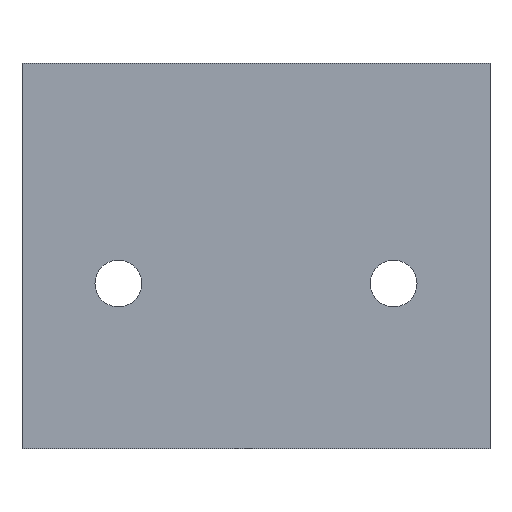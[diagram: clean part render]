
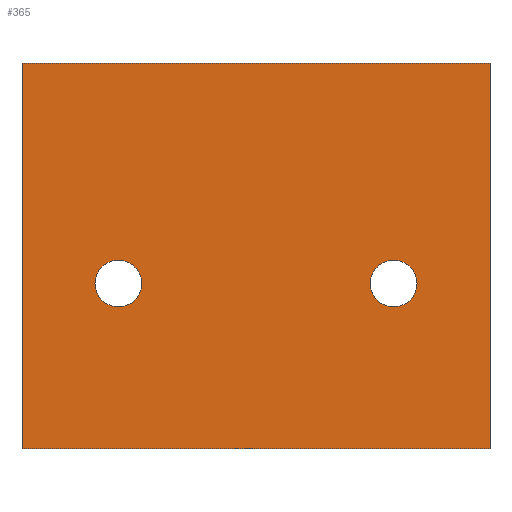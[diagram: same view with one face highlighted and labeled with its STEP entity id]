
A CAD part, front view. The second image highlights one B-rep face of the part: STEP entity #365.
In plain terms, the highlighted planar face has unit normal (0, -1, 0).
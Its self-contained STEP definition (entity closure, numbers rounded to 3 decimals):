
#21 = EDGE_CURVE('',#22,#24,#26,.T.);
#22 = VERTEX_POINT('',#23);
#23 = CARTESIAN_POINT('',(-17.,-18.,-1.));
#24 = VERTEX_POINT('',#25);
#25 = CARTESIAN_POINT('',(-17.,-18.,27.));
#26 = SURFACE_CURVE('',#27,(#31,#43),.PCURVE_S1.);
#27 = LINE('',#28,#29);
#28 = CARTESIAN_POINT('',(-17.,-18.,-1.));
#29 = VECTOR('',#30,1.);
#30 = DIRECTION('',(0.,0.,1.));
#31 = PCURVE('',#32,#37);
#32 = PLANE('',#33);
#33 = AXIS2_PLACEMENT_3D('',#34,#35,#36);
#34 = CARTESIAN_POINT('',(-17.,-18.,-1.));
#35 = DIRECTION('',(1.,0.,0.));
#36 = DIRECTION('',(0.,0.,1.));
#37 = DEFINITIONAL_REPRESENTATION('',(#38),#42);
#38 = LINE('',#39,#40);
#39 = CARTESIAN_POINT('',(0.,0.));
#40 = VECTOR('',#41,1.);
#41 = DIRECTION('',(1.,0.));
#42 = ( GEOMETRIC_REPRESENTATION_CONTEXT(2) 
PARAMETRIC_REPRESENTATION_CONTEXT() REPRESENTATION_CONTEXT('2D SPACE',''
  ) );
#43 = PCURVE('',#44,#49);
#44 = PLANE('',#45);
#45 = AXIS2_PLACEMENT_3D('',#46,#47,#48);
#46 = CARTESIAN_POINT('',(-17.,-18.,-1.));
#47 = DIRECTION('',(0.,1.,0.));
#48 = DIRECTION('',(0.,-0.,1.));
#49 = DEFINITIONAL_REPRESENTATION('',(#50),#54);
#50 = LINE('',#51,#52);
#51 = CARTESIAN_POINT('',(0.,0.));
#52 = VECTOR('',#53,1.);
#53 = DIRECTION('',(1.,0.));
#54 = ( GEOMETRIC_REPRESENTATION_CONTEXT(2) 
PARAMETRIC_REPRESENTATION_CONTEXT() REPRESENTATION_CONTEXT('2D SPACE',''
  ) );
#72 = PLANE('',#73);
#73 = AXIS2_PLACEMENT_3D('',#74,#75,#76);
#74 = CARTESIAN_POINT('',(-17.,-18.,-1.));
#75 = DIRECTION('',(0.,0.,1.));
#76 = DIRECTION('',(1.,0.,-0.));
#126 = PLANE('',#127);
#127 = AXIS2_PLACEMENT_3D('',#128,#129,#130);
#128 = CARTESIAN_POINT('',(-17.,-18.,27.));
#129 = DIRECTION('',(0.,0.,1.));
#130 = DIRECTION('',(1.,0.,-0.));
#365 = ADVANCED_FACE('',(#366,#441,#472),#44,.F.);
#366 = FACE_BOUND('',#367,.F.);
#367 = EDGE_LOOP('',(#368,#391,#392,#415));
#368 = ORIENTED_EDGE('',*,*,#369,.F.);
#369 = EDGE_CURVE('',#22,#370,#372,.T.);
#370 = VERTEX_POINT('',#371);
#371 = CARTESIAN_POINT('',(17.,-18.,-1.));
#372 = SURFACE_CURVE('',#373,(#377,#384),.PCURVE_S1.);
#373 = LINE('',#374,#375);
#374 = CARTESIAN_POINT('',(-17.,-18.,-1.));
#375 = VECTOR('',#376,1.);
#376 = DIRECTION('',(1.,0.,0.));
#377 = PCURVE('',#44,#378);
#378 = DEFINITIONAL_REPRESENTATION('',(#379),#383);
#379 = LINE('',#380,#381);
#380 = CARTESIAN_POINT('',(0.,0.));
#381 = VECTOR('',#382,1.);
#382 = DIRECTION('',(0.,1.));
#383 = ( GEOMETRIC_REPRESENTATION_CONTEXT(2) 
PARAMETRIC_REPRESENTATION_CONTEXT() REPRESENTATION_CONTEXT('2D SPACE',''
  ) );
#384 = PCURVE('',#72,#385);
#385 = DEFINITIONAL_REPRESENTATION('',(#386),#390);
#386 = LINE('',#387,#388);
#387 = CARTESIAN_POINT('',(0.,0.));
#388 = VECTOR('',#389,1.);
#389 = DIRECTION('',(1.,0.));
#390 = ( GEOMETRIC_REPRESENTATION_CONTEXT(2) 
PARAMETRIC_REPRESENTATION_CONTEXT() REPRESENTATION_CONTEXT('2D SPACE',''
  ) );
#391 = ORIENTED_EDGE('',*,*,#21,.T.);
#392 = ORIENTED_EDGE('',*,*,#393,.T.);
#393 = EDGE_CURVE('',#24,#394,#396,.T.);
#394 = VERTEX_POINT('',#395);
#395 = CARTESIAN_POINT('',(17.,-18.,27.));
#396 = SURFACE_CURVE('',#397,(#401,#408),.PCURVE_S1.);
#397 = LINE('',#398,#399);
#398 = CARTESIAN_POINT('',(-17.,-18.,27.));
#399 = VECTOR('',#400,1.);
#400 = DIRECTION('',(1.,0.,0.));
#401 = PCURVE('',#44,#402);
#402 = DEFINITIONAL_REPRESENTATION('',(#403),#407);
#403 = LINE('',#404,#405);
#404 = CARTESIAN_POINT('',(28.,0.));
#405 = VECTOR('',#406,1.);
#406 = DIRECTION('',(0.,1.));
#407 = ( GEOMETRIC_REPRESENTATION_CONTEXT(2) 
PARAMETRIC_REPRESENTATION_CONTEXT() REPRESENTATION_CONTEXT('2D SPACE',''
  ) );
#408 = PCURVE('',#126,#409);
#409 = DEFINITIONAL_REPRESENTATION('',(#410),#414);
#410 = LINE('',#411,#412);
#411 = CARTESIAN_POINT('',(0.,0.));
#412 = VECTOR('',#413,1.);
#413 = DIRECTION('',(1.,0.));
#414 = ( GEOMETRIC_REPRESENTATION_CONTEXT(2) 
PARAMETRIC_REPRESENTATION_CONTEXT() REPRESENTATION_CONTEXT('2D SPACE',''
  ) );
#415 = ORIENTED_EDGE('',*,*,#416,.F.);
#416 = EDGE_CURVE('',#370,#394,#417,.T.);
#417 = SURFACE_CURVE('',#418,(#422,#429),.PCURVE_S1.);
#418 = LINE('',#419,#420);
#419 = CARTESIAN_POINT('',(17.,-18.,-1.));
#420 = VECTOR('',#421,1.);
#421 = DIRECTION('',(0.,0.,1.));
#422 = PCURVE('',#44,#423);
#423 = DEFINITIONAL_REPRESENTATION('',(#424),#428);
#424 = LINE('',#425,#426);
#425 = CARTESIAN_POINT('',(0.,34.));
#426 = VECTOR('',#427,1.);
#427 = DIRECTION('',(1.,0.));
#428 = ( GEOMETRIC_REPRESENTATION_CONTEXT(2) 
PARAMETRIC_REPRESENTATION_CONTEXT() REPRESENTATION_CONTEXT('2D SPACE',''
  ) );
#429 = PCURVE('',#430,#435);
#430 = PLANE('',#431);
#431 = AXIS2_PLACEMENT_3D('',#432,#433,#434);
#432 = CARTESIAN_POINT('',(17.,-18.,-1.));
#433 = DIRECTION('',(1.,0.,0.));
#434 = DIRECTION('',(0.,0.,1.));
#435 = DEFINITIONAL_REPRESENTATION('',(#436),#440);
#436 = LINE('',#437,#438);
#437 = CARTESIAN_POINT('',(0.,0.));
#438 = VECTOR('',#439,1.);
#439 = DIRECTION('',(1.,0.));
#440 = ( GEOMETRIC_REPRESENTATION_CONTEXT(2) 
PARAMETRIC_REPRESENTATION_CONTEXT() REPRESENTATION_CONTEXT('2D SPACE',''
  ) );
#441 = FACE_BOUND('',#442,.F.);
#442 = EDGE_LOOP('',(#443));
#443 = ORIENTED_EDGE('',*,*,#444,.F.);
#444 = EDGE_CURVE('',#445,#445,#447,.T.);
#445 = VERTEX_POINT('',#446);
#446 = CARTESIAN_POINT('',(-8.3,-18.,11.));
#447 = SURFACE_CURVE('',#448,(#453,#460),.PCURVE_S1.);
#448 = CIRCLE('',#449,1.7);
#449 = AXIS2_PLACEMENT_3D('',#450,#451,#452);
#450 = CARTESIAN_POINT('',(-10.,-18.,11.));
#451 = DIRECTION('',(-0.,1.,0.));
#452 = DIRECTION('',(1.,0.,0.));
#453 = PCURVE('',#44,#454);
#454 = DEFINITIONAL_REPRESENTATION('',(#455),#459);
#455 = CIRCLE('',#456,1.7);
#456 = AXIS2_PLACEMENT_2D('',#457,#458);
#457 = CARTESIAN_POINT('',(12.,7.));
#458 = DIRECTION('',(0.,1.));
#459 = ( GEOMETRIC_REPRESENTATION_CONTEXT(2) 
PARAMETRIC_REPRESENTATION_CONTEXT() REPRESENTATION_CONTEXT('2D SPACE',''
  ) );
#460 = PCURVE('',#461,#466);
#461 = CYLINDRICAL_SURFACE('',#462,1.7);
#462 = AXIS2_PLACEMENT_3D('',#463,#464,#465);
#463 = CARTESIAN_POINT('',(-10.,-11.,11.));
#464 = DIRECTION('',(-0.,1.,-0.));
#465 = DIRECTION('',(1.,0.,0.));
#466 = DEFINITIONAL_REPRESENTATION('',(#467),#471);
#467 = LINE('',#468,#469);
#468 = CARTESIAN_POINT('',(0.,-7.));
#469 = VECTOR('',#470,1.);
#470 = DIRECTION('',(1.,-0.));
#471 = ( GEOMETRIC_REPRESENTATION_CONTEXT(2) 
PARAMETRIC_REPRESENTATION_CONTEXT() REPRESENTATION_CONTEXT('2D SPACE',''
  ) );
#472 = FACE_BOUND('',#473,.F.);
#473 = EDGE_LOOP('',(#474));
#474 = ORIENTED_EDGE('',*,*,#475,.F.);
#475 = EDGE_CURVE('',#476,#476,#478,.T.);
#476 = VERTEX_POINT('',#477);
#477 = CARTESIAN_POINT('',(11.7,-18.,11.));
#478 = SURFACE_CURVE('',#479,(#484,#491),.PCURVE_S1.);
#479 = CIRCLE('',#480,1.7);
#480 = AXIS2_PLACEMENT_3D('',#481,#482,#483);
#481 = CARTESIAN_POINT('',(10.,-18.,11.));
#482 = DIRECTION('',(-0.,1.,0.));
#483 = DIRECTION('',(1.,0.,0.));
#484 = PCURVE('',#44,#485);
#485 = DEFINITIONAL_REPRESENTATION('',(#486),#490);
#486 = CIRCLE('',#487,1.7);
#487 = AXIS2_PLACEMENT_2D('',#488,#489);
#488 = CARTESIAN_POINT('',(12.,27.));
#489 = DIRECTION('',(0.,1.));
#490 = ( GEOMETRIC_REPRESENTATION_CONTEXT(2) 
PARAMETRIC_REPRESENTATION_CONTEXT() REPRESENTATION_CONTEXT('2D SPACE',''
  ) );
#491 = PCURVE('',#492,#497);
#492 = CYLINDRICAL_SURFACE('',#493,1.7);
#493 = AXIS2_PLACEMENT_3D('',#494,#495,#496);
#494 = CARTESIAN_POINT('',(10.,-11.,11.));
#495 = DIRECTION('',(-0.,1.,-0.));
#496 = DIRECTION('',(1.,0.,0.));
#497 = DEFINITIONAL_REPRESENTATION('',(#498),#502);
#498 = LINE('',#499,#500);
#499 = CARTESIAN_POINT('',(0.,-7.));
#500 = VECTOR('',#501,1.);
#501 = DIRECTION('',(1.,-0.));
#502 = ( GEOMETRIC_REPRESENTATION_CONTEXT(2) 
PARAMETRIC_REPRESENTATION_CONTEXT() REPRESENTATION_CONTEXT('2D SPACE',''
  ) );
